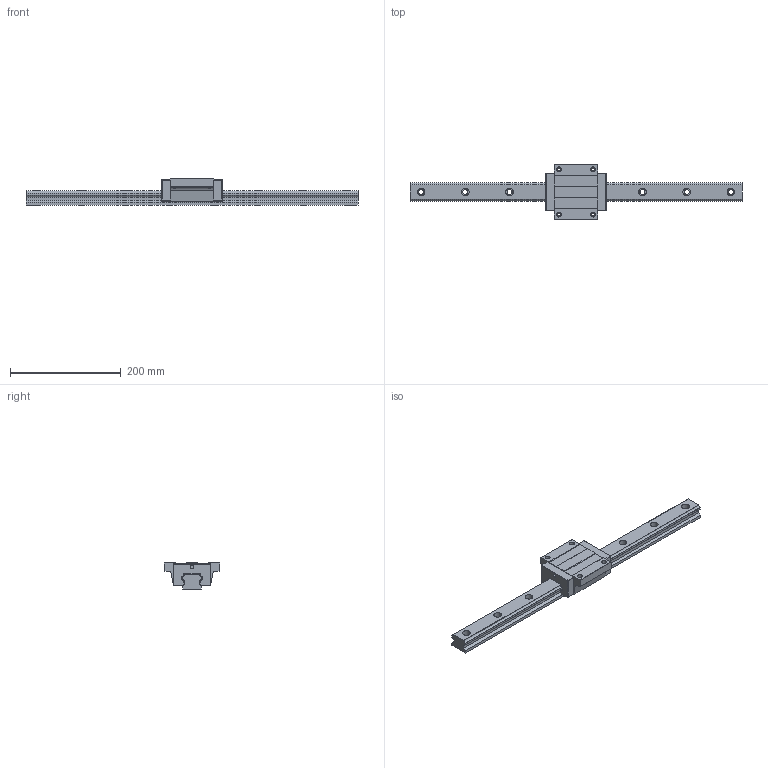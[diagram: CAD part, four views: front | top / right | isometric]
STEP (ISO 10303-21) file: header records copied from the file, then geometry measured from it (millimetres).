
FILE_DESCRIPTION(/* description */ (''),/* implementation_level */ '2;1');
FILE_NAME(/* name */ 'TRH35FN-XN.stp',/* time_stamp */ '2017-10-25T13:11:58+08:00',/* author */ (''),/* organization */ (''),/* preprocessor_version */ 'ST-DEVELOPER v11',/* originating_system */ 'SIEMENS UGS NX 6.0',/* authorisation */ '');
FILE_SCHEMA (('AUTOMOTIVE_DESIGN { 1 0 10303 214 1 1 1 1 }'));
Length unit declared in the file: millimetre
Products named in the file (1): TRH35FN-XN
Bounding box: 600 x 100 x 48 mm (x, y, z)
Volume: 712165.1 mm3; surface area: 121545.3 mm2
Topology: 2 solids, 2 shells, 144 faces, 373 edges, 234 vertices
Faces by surface type: plane 83, cylinder 57, sphere 4
Full cylindrical faces by diameter (mm): 5 x4, 6 x1, 8.5 x4, 9 x8, 14 x8
Entity records: 4433 total; most frequent: CARTESIAN_POINT 945, DIRECTION 730, ORIENTED_EDGE 664, EDGE_CURVE 332, AXIS2_PLACEMENT_3D 259, VERTEX_POINT 222, LINE 212, VECTOR 212
